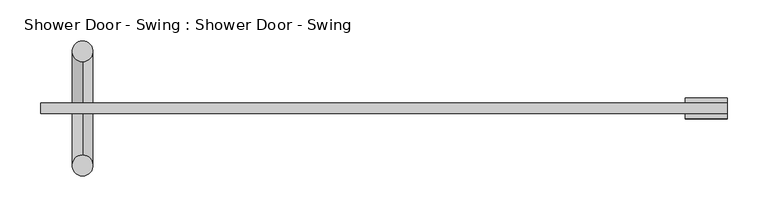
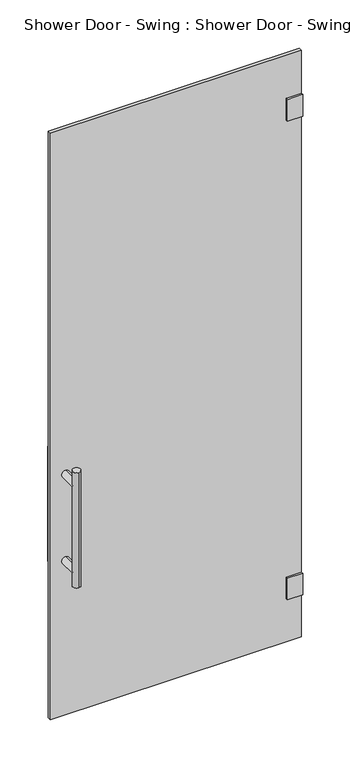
"""IFC4 building model written with IfcOpenShell, lengths in millimetres: plate geometry, Shower Door - Swing : Shower Door - Swing."""

from ifc_helpers import new_model, si_unit, frame, origin, place, context, project, spatial, polyline, circle_curve, ellipse_curve, outline, extrude, source, transform, mapped, element, save
from ifc_brep_helpers import plane_surface, cylinder_surface, advanced_brep


def shower_door_swing_shower_door_swing_2a943b00(model_context):
    return source(origin(), model_context, "Body", "SolidModel", [
        advanced_brep(
        [(-368.3, -76.2, 914.4), (-368.3, -50.8, 914.4), (-368.3, -76.2, 508.0), (-368.3, -50.8, 508.0), (-368.3, -50.8, 876.3), (-381.0, -63.5, 863.6), (-368.3, -50.8, 850.9), (-368.3, -50.8, 571.5), (-381.0, -63.5, 558.8), (-368.3, -50.8, 546.1), (-355.6, -63.5, 558.8), (-355.6, -63.5, 863.6), (-368.3, 0.0, 850.9), (-368.3, 0.0, 876.3), (-368.3, 0.0, 571.5), (-368.3, 0.0, 546.1)],
        [
            (0, 1, circle_curve(frame((-368.3, -63.5, 914.4), z_axis=(0.0, 0.0, 1.0), x_axis=(0.0, 1.0, 0.0)), 12.7)),
            (1, 0, circle_curve(frame((-368.3, -63.5, 914.4), z_axis=(0.0, 0.0, 1.0), x_axis=(0.0, 1.0, 0.0)), 12.7)),
            (2, 3, circle_curve(frame((-368.3, -63.5, 508.0), z_axis=(0.0, 0.0, -1.0), x_axis=(0.0, 1.0, 0.0)), 12.7)),
            (3, 2, circle_curve(frame((-368.3, -63.5, 508.0), z_axis=(0.0, 0.0, -1.0), x_axis=(0.0, 1.0, 0.0)), 12.7)),
            (1, 4),
            (4, 5, ellipse_curve(frame((-368.3, -63.5, 863.6), z_axis=(0.0, -0.7071067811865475, 0.7071067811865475), x_axis=(0.0, 0.7071067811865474, 0.7071067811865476)), 17.9605122, 12.7)),
            (5, 6, ellipse_curve(frame((-368.3, -63.5, 863.6), z_axis=(0.0, -0.7071067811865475, -0.7071067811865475), x_axis=(0.0, -0.7071067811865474, 0.7071067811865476)), 17.9605122, 12.7)),
            (6, 7),
            (7, 8, ellipse_curve(frame((-368.3, -63.5, 558.8), z_axis=(0.0, -0.7071067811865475, 0.7071067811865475), x_axis=(0.0, 0.7071067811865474, 0.7071067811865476)), 17.9605122, 12.7)),
            (8, 9, ellipse_curve(frame((-368.3, -63.5, 558.8), z_axis=(0.0, -0.7071067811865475, -0.7071067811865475), x_axis=(0.0, -0.7071067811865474, 0.7071067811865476)), 17.9605122, 12.7)),
            (9, 3),
            (2, 0),
            (9, 10, ellipse_curve(frame((-368.3, -63.5, 558.8), z_axis=(0.0, -0.7071067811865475, -0.7071067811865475), x_axis=(0.0, -0.7071067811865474, 0.7071067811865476)), 17.9605122, 12.7)),
            (10, 7, ellipse_curve(frame((-368.3, -63.5, 558.8), z_axis=(0.0, -0.7071067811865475, 0.7071067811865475), x_axis=(0.0, 0.7071067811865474, 0.7071067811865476)), 17.9605122, 12.7)),
            (6, 11, ellipse_curve(frame((-368.3, -63.5, 863.6), z_axis=(0.0, -0.7071067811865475, -0.7071067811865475), x_axis=(0.0, -0.7071067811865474, 0.7071067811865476)), 17.9605122, 12.7)),
            (11, 4, ellipse_curve(frame((-368.3, -63.5, 863.6), z_axis=(0.0, -0.7071067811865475, 0.7071067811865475), x_axis=(0.0, 0.7071067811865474, 0.7071067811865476)), 17.9605122, 12.7)),
            (12, 13, circle_curve(frame((-368.3, 0.0, 863.6), z_axis=(0.0, 1.0, 0.0), x_axis=(0.0, 0.0, 1.0)), 12.7)),
            (13, 12, circle_curve(frame((-368.3, 0.0, 863.6), z_axis=(0.0, 1.0, 0.0), x_axis=(0.0, 0.0, 1.0)), 12.7)),
            (12, 6),
            (4, 13),
            (14, 15, circle_curve(frame((-368.3, 0.0, 558.8), z_axis=(0.0, 1.0, 0.0), x_axis=(0.0, 0.0, -1.0)), 12.7)),
            (15, 14, circle_curve(frame((-368.3, 0.0, 558.8), z_axis=(0.0, 1.0, 0.0), x_axis=(0.0, 0.0, -1.0)), 12.7)),
            (15, 9),
            (7, 14),
        ],
        [
            plane_surface(frame((-368.3, -63.5, 914.4), z_axis=(0.0, 0.0, 1.0), x_axis=(-1.0, 0.0, 0.0))),
            plane_surface(frame((-368.3, -63.5, 508.0), z_axis=(0.0, 0.0, -1.0), x_axis=(-1.0, 0.0, 0.0))),
            cylinder_surface(frame((-368.3, -63.5, 914.4), z_axis=(0.0, 0.0, 1.0), x_axis=(0.0, 1.0, 0.0)), 12.7),
            plane_surface(frame((-368.3, 0.0, 863.6), z_axis=(0.0, 1.0, 0.0), x_axis=(-1.0, 0.0, 0.0))),
            cylinder_surface(frame((-368.3, -63.5, 863.6), z_axis=(0.0, -1.0, 0.0), x_axis=(0.0, 0.0, 1.0)), 12.7),
            plane_surface(frame((-368.3, 0.0, 558.8), z_axis=(0.0, 1.0, 0.0), x_axis=(-1.0, 0.0, 0.0))),
            cylinder_surface(frame((-368.3, -63.5, 558.8), z_axis=(0.0, -1.0, 0.0), x_axis=(0.0, 0.0, -1.0)), 12.7),
        ],
        [
            (0, [[1, 2]]),
            (1, [[3, 4]]),
            (2, [[5, 6, 7, 8, 9, 10, 11, -3, 12, -2]]),
            (2, [[-12, -4, -11, 13, 14, -8, 15, 16, -5, -1]]),
            (3, [[17, 18]]),
            (4, [[19, -7, -6, 20, -17]]),
            (4, [[-20, -16, -15, -19, -18]]),
            (5, [[21, 22]]),
            (6, [[23, -10, -9, 24, -22]]),
            (6, [[-24, -14, -13, -23, -21]]),
        ],
    ),
        advanced_brep(
        [(-368.3, 88.9, 914.4), (-368.3, 63.5, 914.4), (-368.3, 88.9, 508.0), (-368.3, 63.5, 508.0), (-368.3, 63.5, 546.1), (-381.0, 76.2, 558.8), (-368.3, 63.5, 571.5), (-368.3, 63.5, 850.9), (-381.0, 76.2, 863.6), (-368.3, 63.5, 876.3), (-355.6, 76.2, 863.6), (-355.6, 76.2, 558.8), (-368.3, 12.7, 850.9), (-368.3, 12.7, 876.3), (-368.3, 12.7, 571.5), (-368.3, 12.7, 546.1)],
        [
            (0, 1, circle_curve(frame((-368.3, 76.2, 914.4), z_axis=(0.0, 0.0, 1.0), x_axis=(0.0, -1.0, 0.0)), 12.7)),
            (1, 0, circle_curve(frame((-368.3, 76.2, 914.4), z_axis=(0.0, 0.0, 1.0), x_axis=(0.0, -1.0, 0.0)), 12.7)),
            (2, 3, circle_curve(frame((-368.3, 76.2, 508.0), z_axis=(0.0, 0.0, -1.0), x_axis=(0.0, -1.0, 0.0)), 12.7)),
            (3, 2, circle_curve(frame((-368.3, 76.2, 508.0), z_axis=(0.0, 0.0, -1.0), x_axis=(0.0, -1.0, 0.0)), 12.7)),
            (0, 2),
            (3, 4),
            (4, 5, ellipse_curve(frame((-368.3, 76.2, 558.8), z_axis=(0.0, 0.7071067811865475, -0.7071067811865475), x_axis=(0.0, 0.7071067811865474, 0.7071067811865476)), 17.9605122, 12.7)),
            (5, 6, ellipse_curve(frame((-368.3, 76.2, 558.8), z_axis=(0.0, 0.7071067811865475, 0.7071067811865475), x_axis=(0.0, -0.7071067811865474, 0.7071067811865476)), 17.9605122, 12.7)),
            (6, 7),
            (7, 8, ellipse_curve(frame((-368.3, 76.2, 863.6), z_axis=(0.0, 0.7071067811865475, -0.7071067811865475), x_axis=(0.0, 0.7071067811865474, 0.7071067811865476)), 17.9605122, 12.7)),
            (8, 9, ellipse_curve(frame((-368.3, 76.2, 863.6), z_axis=(0.0, 0.7071067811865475, 0.7071067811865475), x_axis=(0.0, -0.7071067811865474, 0.7071067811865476)), 17.9605122, 12.7)),
            (9, 1),
            (9, 10, ellipse_curve(frame((-368.3, 76.2, 863.6), z_axis=(0.0, 0.7071067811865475, 0.7071067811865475), x_axis=(0.0, -0.7071067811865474, 0.7071067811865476)), 17.9605122, 12.7)),
            (10, 7, ellipse_curve(frame((-368.3, 76.2, 863.6), z_axis=(0.0, 0.7071067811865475, -0.7071067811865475), x_axis=(0.0, 0.7071067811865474, 0.7071067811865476)), 17.9605122, 12.7)),
            (6, 11, ellipse_curve(frame((-368.3, 76.2, 558.8), z_axis=(0.0, 0.7071067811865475, 0.7071067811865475), x_axis=(0.0, -0.7071067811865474, 0.7071067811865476)), 17.9605122, 12.7)),
            (11, 4, ellipse_curve(frame((-368.3, 76.2, 558.8), z_axis=(0.0, 0.7071067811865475, -0.7071067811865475), x_axis=(0.0, 0.7071067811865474, 0.7071067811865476)), 17.9605122, 12.7)),
            (12, 13, circle_curve(frame((-368.3, 12.7, 863.6), z_axis=(0.0, -1.0, 0.0), x_axis=(0.0, 0.0, 1.0)), 12.7)),
            (13, 12, circle_curve(frame((-368.3, 12.7, 863.6), z_axis=(0.0, -1.0, 0.0), x_axis=(0.0, 0.0, 1.0)), 12.7)),
            (13, 9),
            (7, 12),
            (14, 15, circle_curve(frame((-368.3, 12.7, 558.8), z_axis=(0.0, -1.0, 0.0), x_axis=(0.0, 0.0, -1.0)), 12.7)),
            (15, 14, circle_curve(frame((-368.3, 12.7, 558.8), z_axis=(0.0, -1.0, 0.0), x_axis=(0.0, 0.0, -1.0)), 12.7)),
            (14, 6),
            (4, 15),
        ],
        [
            plane_surface(frame((-368.3, 76.2, 914.4), z_axis=(0.0, 0.0, 1.0), x_axis=(-1.0, 0.0, 0.0))),
            plane_surface(frame((-368.3, 76.2, 508.0), z_axis=(0.0, 0.0, -1.0), x_axis=(-1.0, 0.0, 0.0))),
            cylinder_surface(frame((-368.3, 76.2, 914.4), z_axis=(0.0, 0.0, 1.0), x_axis=(0.0, -1.0, 0.0)), 12.7),
            plane_surface(frame((-368.3, 12.7, 863.6), z_axis=(0.0, -1.0, 0.0), x_axis=(-1.0, 0.0, 0.0))),
            cylinder_surface(frame((-368.3, 76.2, 863.6), z_axis=(0.0, 1.0, 0.0), x_axis=(0.0, 0.0, 1.0)), 12.7),
            plane_surface(frame((-368.3, 12.7, 558.8), z_axis=(0.0, -1.0, 0.0), x_axis=(-1.0, 0.0, 0.0))),
            cylinder_surface(frame((-368.3, 76.2, 558.8), z_axis=(0.0, 1.0, 0.0), x_axis=(0.0, 0.0, -1.0)), 12.7),
        ],
        [
            (0, [[1, 2]]),
            (1, [[3, 4]]),
            (2, [[-1, 5, -4, 6, 7, 8, 9, 10, 11, 12]]),
            (2, [[-2, -12, 13, 14, -9, 15, 16, -6, -3, -5]]),
            (3, [[17, 18]]),
            (4, [[-18, 19, -11, -10, 20]]),
            (4, [[-17, -20, -14, -13, -19]]),
            (5, [[21, 22]]),
            (6, [[-21, 23, -8, -7, 24]]),
            (6, [[-22, -24, -16, -15, -23]]),
        ],
    ),
        extrude(outline(polyline([(419.1, 0.0), (419.1, -6.35), (368.3, -6.35), (368.3, 0.0), (419.1, 0.0)])), frame((0.0, 0.0, 1854.2), z_axis=(0.0, 0.0, 1.0), x_axis=(1.0, 0.0, 0.0)), (0.0, 0.0, 1.0), 76.2),
        extrude(outline(polyline([(368.3, 12.7), (368.3, 19.05), (419.1, 19.05), (419.1, 12.7), (368.3, 12.7)])), frame((0.0, 0.0, 1854.2), z_axis=(0.0, 0.0, 1.0), x_axis=(1.0, 0.0, 0.0)), (0.0, 0.0, 1.0), 76.2),
        extrude(outline(polyline([(419.1, 0.0), (419.1, -6.35), (368.3, -6.35), (368.3, 0.0), (419.1, 0.0)])), frame((0.0, 0.0, 165.1), z_axis=(0.0, 0.0, 1.0), x_axis=(1.0, 0.0, 0.0)), (0.0, 0.0, 1.0), 76.2),
        extrude(outline(polyline([(368.3, 12.7), (368.3, 19.05), (419.1, 19.05), (419.1, 12.7), (368.3, 12.7)])), frame((0.0, 0.0, 165.1), z_axis=(0.0, 0.0, 1.0), x_axis=(1.0, 0.0, 0.0)), (0.0, 0.0, 1.0), 76.2),
        extrude(outline(polyline([(419.1, 12.7), (419.1, 0.0), (-419.1, 0.0), (-419.1, 12.7), (419.1, 12.7)])), frame((0.0, 0.0, 12.7), z_axis=(0.0, 0.0, 1.0), x_axis=(1.0, 0.0, 0.0)), (0.0, 0.0, 1.0), 2070.1),
    ])


if __name__ == "__main__":
    model = new_model("IFC4")
    model_context = context("Model", 3, world=origin())
    ifc_project = project(units=[si_unit("LENGTHUNIT", "METRE", prefix="MILLI")], contexts=[model_context])
    site = spatial("IfcSite", under=ifc_project)
    building = spatial("IfcBuilding", under=site)
    placement = place(None, origin())
    shower_door_swing_shower_door_swing_shape = shower_door_swing_shower_door_swing_2a943b00(model_context)
    element("IfcPlate", 1, ObjectType="Shower Door - Swing : Shower Door - Swing", at=placement, inside=building, context=model_context, shape_type="MappedRepresentation", body=[
        mapped(shower_door_swing_shower_door_swing_shape, transform((0.0, 0.0, 0.0), x_axis=(1.0, 0.0, 0.0), y_axis=(0.0, 1.0, 0.0), z_axis=(0.0, 0.0, 1.0))),
    ])
    save(model, "model.ifc")
